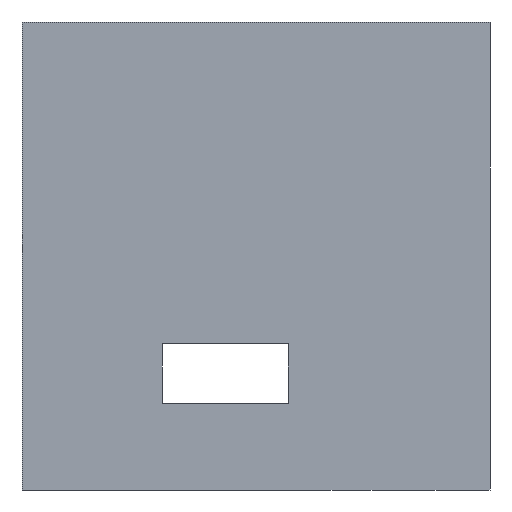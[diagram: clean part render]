
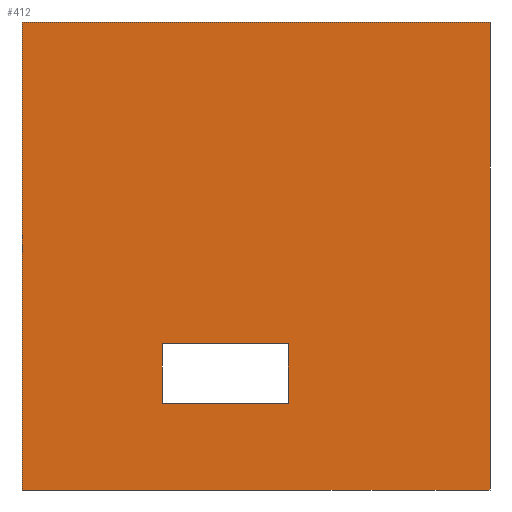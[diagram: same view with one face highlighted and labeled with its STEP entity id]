
A CAD part, front view. The second image highlights one B-rep face of the part: STEP entity #412.
In plain terms, the highlighted planar face has unit normal (0, -1, 0).
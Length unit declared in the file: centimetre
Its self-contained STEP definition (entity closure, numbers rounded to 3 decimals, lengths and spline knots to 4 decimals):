
#22 = LINE ( 'NONE', #576, #434 ) ;
#44 = ORIENTED_EDGE ( 'NONE', *, *, #436, .T. ) ;
#76 = DIRECTION ( 'NONE',  ( 0., 1., 0. ) ) ;
#79 = PLANE ( 'NONE',  #643 ) ;
#82 = DIRECTION ( 'NONE',  ( 1., 0., 0. ) ) ;
#109 = CARTESIAN_POINT ( 'NONE',  ( 1000., 0., 1000. ) ) ;
#129 = CARTESIAN_POINT ( 'NONE',  ( 0., 0., 0. ) ) ;
#130 = DIRECTION ( 'NONE',  ( 0., 0., -1. ) ) ;
#144 = ORIENTED_EDGE ( 'NONE', *, *, #531, .T. ) ;
#168 = EDGE_CURVE ( 'NONE', #597, #226, #868, .T. ) ;
#175 = DIRECTION ( 'NONE',  ( 1., 0., 0. ) ) ;
#192 = EDGE_CURVE ( 'NONE', #460, #348, #462, .T. ) ;
#200 = VECTOR ( 'NONE', #522, 100. ) ;
#201 = CARTESIAN_POINT ( 'NONE',  ( 1000., 0., 0. ) ) ;
#217 = LINE ( 'NONE', #413, #465 ) ;
#221 = EDGE_LOOP ( 'NONE', ( #469, #806, #554, #144 ) ) ;
#226 = VERTEX_POINT ( 'NONE', #201 ) ;
#264 = VECTOR ( 'NONE', #695, 100. ) ;
#271 = CARTESIAN_POINT ( 'NONE',  ( 1000., 0., 1000. ) ) ;
#289 = EDGE_CURVE ( 'NONE', #348, #526, #318, .T. ) ;
#318 = LINE ( 'NONE', #323, #200 ) ;
#323 = CARTESIAN_POINT ( 'NONE',  ( 299.952, 0., 185.725 ) ) ;
#335 = CARTESIAN_POINT ( 'NONE',  ( 569.2979, 0., 185.725 ) ) ;
#348 = VERTEX_POINT ( 'NONE', #377 ) ;
#365 = CARTESIAN_POINT ( 'NONE',  ( 299.952, 0., 312.071 ) ) ;
#372 = VECTOR ( 'NONE', #175, 100. ) ;
#375 = CARTESIAN_POINT ( 'NONE',  ( 299.952, 0., 185.725 ) ) ;
#377 = CARTESIAN_POINT ( 'NONE',  ( 299.952, 0., 185.725 ) ) ;
#394 = VECTOR ( 'NONE', #488, 100. ) ;
#395 = EDGE_CURVE ( 'NONE', #596, #597, #217, .T. ) ;
#407 = FACE_BOUND ( 'NONE', #221, .T. ) ;
#410 = DIRECTION ( 'NONE',  ( 0., 0., 1. ) ) ;
#412 = ADVANCED_FACE ( 'NONE', ( #407, #686 ), #79, .F. ) ;
#413 = CARTESIAN_POINT ( 'NONE',  ( 0., 0., 1000. ) ) ;
#434 = VECTOR ( 'NONE', #850, 100. ) ;
#436 = EDGE_CURVE ( 'NONE', #596, #573, #750, .T. ) ;
#452 = LINE ( 'NONE', #501, #372 ) ;
#460 = VERTEX_POINT ( 'NONE', #335 ) ;
#462 = LINE ( 'NONE', #375, #711 ) ;
#465 = VECTOR ( 'NONE', #82, 100. ) ;
#468 = CARTESIAN_POINT ( 'NONE',  ( 0., 0., 1000. ) ) ;
#469 = ORIENTED_EDGE ( 'NONE', *, *, #192, .T. ) ;
#488 = DIRECTION ( 'NONE',  ( 1., 0., 0. ) ) ;
#501 = CARTESIAN_POINT ( 'NONE',  ( 0., 0., 0. ) ) ;
#522 = DIRECTION ( 'NONE',  ( 0., 0., 1. ) ) ;
#526 = VERTEX_POINT ( 'NONE', #365 ) ;
#531 = EDGE_CURVE ( 'NONE', #572, #460, #22, .T. ) ;
#554 = ORIENTED_EDGE ( 'NONE', *, *, #684, .T. ) ;
#570 = EDGE_CURVE ( 'NONE', #573, #226, #452, .T. ) ;
#572 = VERTEX_POINT ( 'NONE', #734 ) ;
#573 = VERTEX_POINT ( 'NONE', #129 ) ;
#576 = CARTESIAN_POINT ( 'NONE',  ( 569.2979, 0., 185.725 ) ) ;
#596 = VERTEX_POINT ( 'NONE', #776 ) ;
#597 = VERTEX_POINT ( 'NONE', #109 ) ;
#624 = CARTESIAN_POINT ( 'NONE',  ( 0., 0., 1000. ) ) ;
#643 = AXIS2_PLACEMENT_3D ( 'NONE', #624, #76, #410 ) ;
#659 = VECTOR ( 'NONE', #130, 100. ) ;
#663 = DIRECTION ( 'NONE',  ( -1., 0., 0. ) ) ;
#684 = EDGE_CURVE ( 'NONE', #526, #572, #783, .T. ) ;
#686 = FACE_OUTER_BOUND ( 'NONE', #716, .T. ) ;
#695 = DIRECTION ( 'NONE',  ( 0., 0., -1. ) ) ;
#703 = CARTESIAN_POINT ( 'NONE',  ( 299.952, 0., 312.071 ) ) ;
#711 = VECTOR ( 'NONE', #663, 100. ) ;
#716 = EDGE_LOOP ( 'NONE', ( #762, #744, #871, #44 ) ) ;
#734 = CARTESIAN_POINT ( 'NONE',  ( 569.2979, 0., 312.071 ) ) ;
#744 = ORIENTED_EDGE ( 'NONE', *, *, #168, .F. ) ;
#750 = LINE ( 'NONE', #468, #264 ) ;
#762 = ORIENTED_EDGE ( 'NONE', *, *, #570, .T. ) ;
#776 = CARTESIAN_POINT ( 'NONE',  ( 0., 0., 1000. ) ) ;
#783 = LINE ( 'NONE', #703, #394 ) ;
#806 = ORIENTED_EDGE ( 'NONE', *, *, #289, .T. ) ;
#850 = DIRECTION ( 'NONE',  ( 0., 0., -1. ) ) ;
#868 = LINE ( 'NONE', #271, #659 ) ;
#871 = ORIENTED_EDGE ( 'NONE', *, *, #395, .F. ) ;
